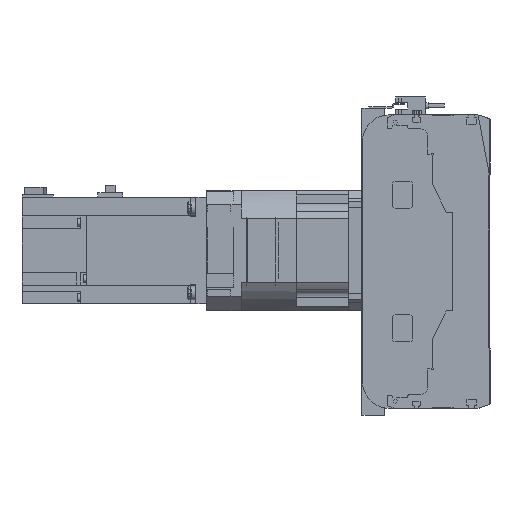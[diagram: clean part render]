
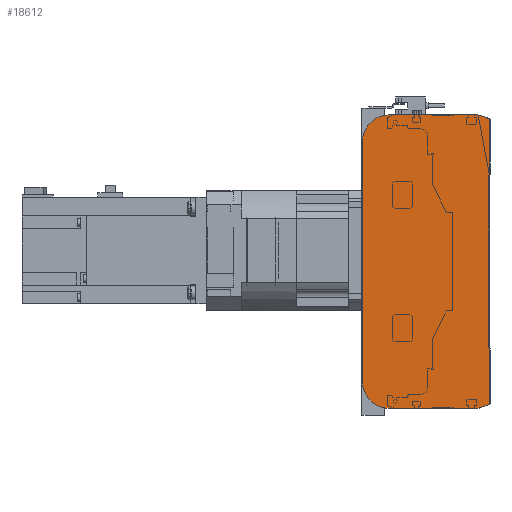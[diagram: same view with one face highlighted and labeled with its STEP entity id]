
A CAD part, left-side view. The second image highlights one B-rep face of the part: STEP entity #18612.
In plain terms, the highlighted planar face has unit normal (-1, 0, 0).
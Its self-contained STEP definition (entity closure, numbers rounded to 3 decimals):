
#1062=CIRCLE('',#20285,20.);
#1063=CIRCLE('',#20288,20.);
#4638=ORIENTED_EDGE('',*,*,#8072,.F.);
#4639=ORIENTED_EDGE('',*,*,#8114,.F.);
#4640=ORIENTED_EDGE('',*,*,#8112,.F.);
#4641=ORIENTED_EDGE('',*,*,#8110,.F.);
#4642=ORIENTED_EDGE('',*,*,#8099,.F.);
#4643=ORIENTED_EDGE('',*,*,#8090,.F.);
#4644=ORIENTED_EDGE('',*,*,#8086,.F.);
#4645=ORIENTED_EDGE('',*,*,#8083,.F.);
#8072=EDGE_CURVE('',#10133,#10134,#11803,.T.);
#8083=EDGE_CURVE('',#10134,#10141,#11814,.T.);
#8086=EDGE_CURVE('',#10141,#10143,#11817,.T.);
#8090=EDGE_CURVE('',#10143,#10144,#11821,.T.);
#8099=EDGE_CURVE('',#10144,#10150,#11830,.T.);
#8110=EDGE_CURVE('',#10150,#10157,#1062,.T.);
#8112=EDGE_CURVE('',#10157,#10158,#11842,.T.);
#8114=EDGE_CURVE('',#10158,#10133,#1063,.T.);
#10133=VERTEX_POINT('',#30759);
#10134=VERTEX_POINT('',#30761);
#10141=VERTEX_POINT('',#30780);
#10143=VERTEX_POINT('',#30786);
#10144=VERTEX_POINT('',#30792);
#10150=VERTEX_POINT('',#30808);
#10157=VERTEX_POINT('',#30827);
#10158=VERTEX_POINT('',#30831);
#11803=LINE('',#30760,#13384);
#11814=LINE('',#30779,#13395);
#11817=LINE('',#30785,#13398);
#11821=LINE('',#30791,#13402);
#11830=LINE('',#30807,#13411);
#11842=LINE('',#30830,#13423);
#13384=VECTOR('',#24572,1000.);
#13395=VECTOR('',#24585,1000.);
#13398=VECTOR('',#24590,1000.);
#13402=VECTOR('',#24596,1000.);
#13411=VECTOR('',#24607,1000.);
#13423=VECTOR('',#24625,1000.);
#14808=EDGE_LOOP('',(#4638,#4639,#4640,#4641,#4642,#4643,#4644,#4645));
#16542=FACE_BOUND('',#14808,.T.);
#17715=PLANE('',#20289);
#18612=ADVANCED_FACE('',(#16542),#17715,.F.);
#20285=AXIS2_PLACEMENT_3D('',#30826,#24620,#24621);
#20288=AXIS2_PLACEMENT_3D('',#30834,#24629,#24630);
#20289=AXIS2_PLACEMENT_3D('',#30835,#24631,#24632);
#24572=DIRECTION('',(0.,-1.,0.));
#24585=DIRECTION('',(0.,-0.945,-0.328));
#24590=DIRECTION('',(0.,0.,-1.));
#24596=DIRECTION('',(0.,0.945,-0.328));
#24607=DIRECTION('',(0.,1.,0.));
#24620=DIRECTION('',(1.,0.,0.));
#24621=DIRECTION('',(0.,0.,-1.));
#24625=DIRECTION('',(0.,0.,1.));
#24629=DIRECTION('',(1.,0.,0.));
#24630=DIRECTION('',(0.,0.,-1.));
#24631=DIRECTION('',(1.,0.,0.));
#24632=DIRECTION('',(0.,0.,-1.));
#30759=CARTESIAN_POINT('',(0.,75.5,110.));
#30760=CARTESIAN_POINT('',(0.,75.5,110.));
#30761=CARTESIAN_POINT('',(0.,9.,110.));
#30779=CARTESIAN_POINT('',(0.,9.,110.));
#30780=CARTESIAN_POINT('',(0.,0.5,107.05));
#30785=CARTESIAN_POINT('',(0.,0.5,107.05));
#30786=CARTESIAN_POINT('',(0.,0.5,-107.05));
#30791=CARTESIAN_POINT('',(0.,0.5,-107.05));
#30792=CARTESIAN_POINT('',(0.,9.,-110.));
#30807=CARTESIAN_POINT('',(0.,9.,-110.));
#30808=CARTESIAN_POINT('',(0.,75.5,-110.));
#30826=CARTESIAN_POINT('',(0.,75.5,-90.));
#30827=CARTESIAN_POINT('',(0.,95.5,-90.));
#30830=CARTESIAN_POINT('',(0.,95.5,-90.));
#30831=CARTESIAN_POINT('',(0.,95.5,90.));
#30834=CARTESIAN_POINT('',(0.,75.5,90.));
#30835=CARTESIAN_POINT('',(0.,75.5,-90.));
